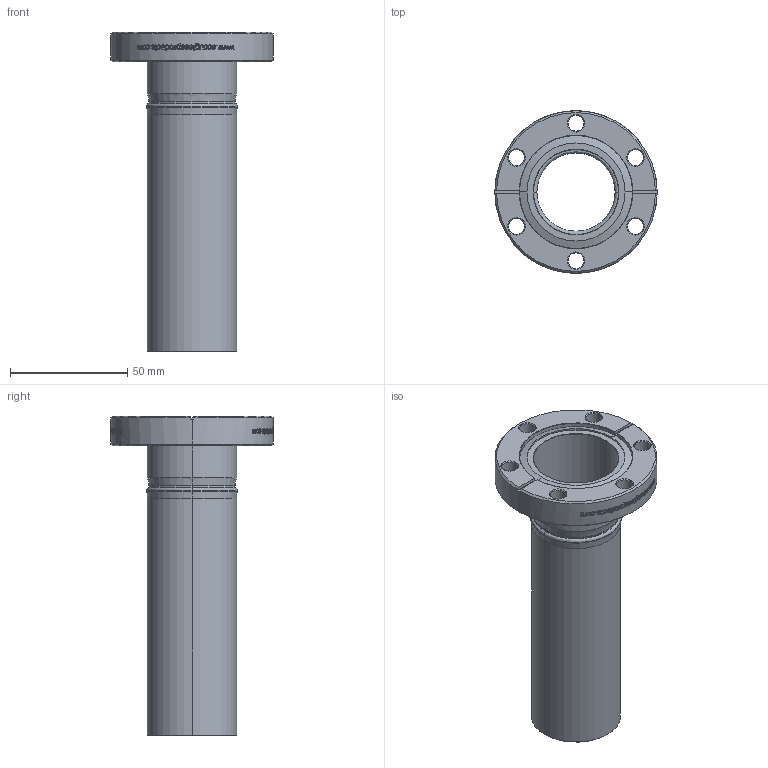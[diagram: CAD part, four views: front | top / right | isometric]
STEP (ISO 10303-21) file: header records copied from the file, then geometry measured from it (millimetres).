
FILE_DESCRIPTION (( 'STEP AP203' ), '1' );
FILE_NAME ('211018.stp', '2018-05-21T16:56:38', ( '' ), ( '' ), 'SwSTEP 2.0', 'SolidWorks 2012', '' );
FILE_SCHEMA (( 'CONFIG_CONTROL_DESIGN' ));
Length unit declared in the file: centimetre
Products named in the file (1): 211018
Bounding box: 69.34 x 69.34 x 136.53 mm (x, y, z)
Volume: 57035 mm3; surface area: 39390.6 mm2
Topology: 1 solids, 1 shells, 893 faces, 2441 edges, 1611 vertices
Faces by surface type: bspline 526, plane 239, cylinder 88, cone 40
Entity records: 67367 total; most frequent: CARTESIAN_POINT 47908, ORIENTED_EDGE 4882, DIRECTION 2520, EDGE_CURVE 2441, VERTEX_POINT 1611, B_SPLINE_CURVE_WITH_KNOTS 1036, VECTOR 1026, LINE 1026
